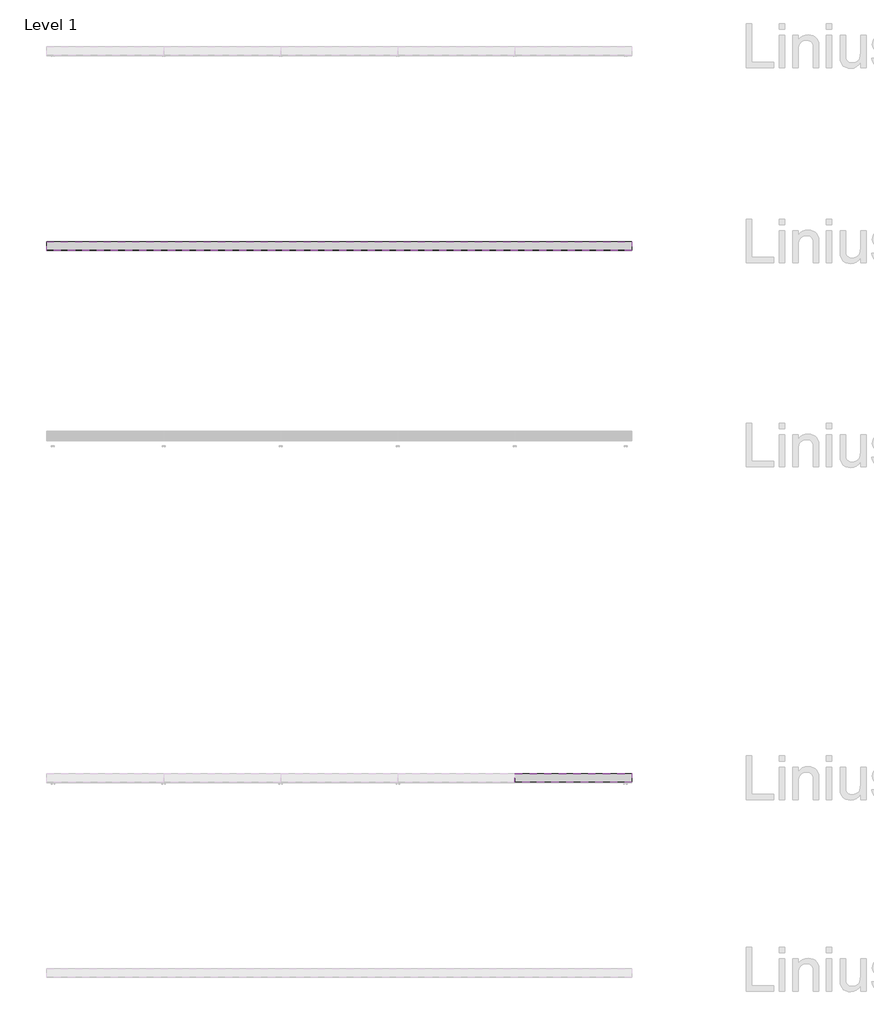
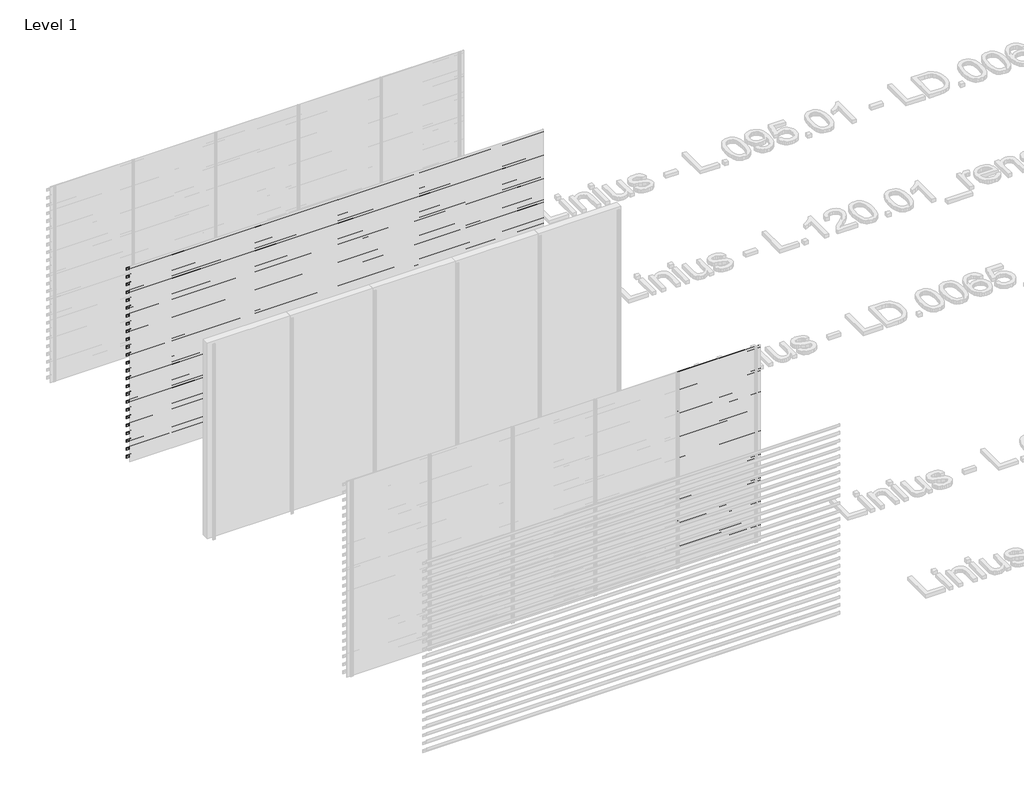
# One storey, part 40 of 46: 50 proxies.
"""IFC4 building model written with IfcOpenShell, lengths in millimetres."""

from ifc_helpers import new_model, si_unit, frame, origin, place, context, project, spatial, polyline, outline, extrude, element, save

model = new_model("IFC4")

# Units and contexts
model_context = context("Model", 3, world=origin())
ifc_project = project(units=[si_unit("LENGTHUNIT", "METRE", prefix="MILLI")], contexts=[model_context])

# Site, building, storey
site = spatial("IfcSite", under=ifc_project)
building = spatial("IfcBuilding", under=site)
storey = spatial("IfcBuildingStorey", under=building, Name="Level 1", Elevation=0.0)

# Proxies
placement = place(None, origin())
element("IfcBuildingElementProxy", 1, Name="Wall Sweeps", at=placement, inside=storey, context=model_context, shape_type="SweptSolid", body=[
    extrude(outline(polyline([(72023.0540136, 2920.0), (72023.0540136, 2880.0), (72021.0540136, 2881.349017), (72021.0540136, 2918.7258595), (71933.0540136, 2959.7609334), (71933.0540136, 3000.0), (71935.0540136, 3000.0), (71935.0540136, 2961.0350739), (72023.0540136, 2920.0)])), frame((466.6208097, 0.0, 0.0), z_axis=(1.0, 0.0, 0.0), x_axis=(0.0, 1.0, 0.0)), (0.0, 0.0, 1.0), 6000.0),
])
element("IfcBuildingElementProxy", 2, Name="Wall Sweeps", at=placement, inside=storey, context=model_context, shape_type="SweptSolid", body=[
    extrude(outline(polyline([(72023.0540136, 2800.0), (72023.0540136, 2760.0), (72021.0540136, 2761.349017), (72021.0540136, 2798.7258595), (71933.0540136, 2839.7609334), (71933.0540136, 2880.0), (71935.0540136, 2880.0), (71935.0540136, 2841.0350739), (72023.0540136, 2800.0)])), frame((466.6208097, 0.0, 0.0), z_axis=(1.0, 0.0, 0.0), x_axis=(0.0, 1.0, 0.0)), (0.0, 0.0, 1.0), 6000.0),
])
element("IfcBuildingElementProxy", 3, Name="Wall Sweeps", at=placement, inside=storey, context=model_context, shape_type="SweptSolid", body=[
    extrude(outline(polyline([(72023.0540136, 2680.0), (72023.0540136, 2640.0), (72021.0540136, 2641.349017), (72021.0540136, 2678.7258595), (71933.0540136, 2719.7609334), (71933.0540136, 2760.0), (71935.0540136, 2760.0), (71935.0540136, 2721.0350739), (72023.0540136, 2680.0)])), frame((466.6208097, 0.0, 0.0), z_axis=(1.0, 0.0, 0.0), x_axis=(0.0, 1.0, 0.0)), (0.0, 0.0, 1.0), 6000.0),
])
element("IfcBuildingElementProxy", 4, Name="Wall Sweeps", at=placement, inside=storey, context=model_context, shape_type="SweptSolid", body=[
    extrude(outline(polyline([(72023.0540136, 2560.0), (72023.0540136, 2520.0), (72021.0540136, 2521.349017), (72021.0540136, 2558.7258595), (71933.0540136, 2599.7609334), (71933.0540136, 2640.0), (71935.0540136, 2640.0), (71935.0540136, 2601.0350739), (72023.0540136, 2560.0)])), frame((466.6208097, 0.0, 0.0), z_axis=(1.0, 0.0, 0.0), x_axis=(0.0, 1.0, 0.0)), (0.0, 0.0, 1.0), 6000.0),
])
element("IfcBuildingElementProxy", 5, Name="Wall Sweeps", at=placement, inside=storey, context=model_context, shape_type="SweptSolid", body=[
    extrude(outline(polyline([(72023.0540136, 2440.0), (72023.0540136, 2400.0), (72021.0540136, 2401.349017), (72021.0540136, 2438.7258595), (71933.0540136, 2479.7609334), (71933.0540136, 2520.0), (71935.0540136, 2520.0), (71935.0540136, 2481.0350739), (72023.0540136, 2440.0)])), frame((466.6208097, 0.0, 0.0), z_axis=(1.0, 0.0, 0.0), x_axis=(0.0, 1.0, 0.0)), (0.0, 0.0, 1.0), 6000.0),
])
element("IfcBuildingElementProxy", 6, Name="Wall Sweeps", at=placement, inside=storey, context=model_context, shape_type="SweptSolid", body=[
    extrude(outline(polyline([(72023.0540136, 2320.0), (72023.0540136, 2280.0), (72021.0540136, 2281.349017), (72021.0540136, 2318.7258595), (71933.0540136, 2359.7609334), (71933.0540136, 2400.0), (71935.0540136, 2400.0), (71935.0540136, 2361.0350739), (72023.0540136, 2320.0)])), frame((466.6208097, 0.0, 0.0), z_axis=(1.0, 0.0, 0.0), x_axis=(0.0, 1.0, 0.0)), (0.0, 0.0, 1.0), 6000.0),
])
element("IfcBuildingElementProxy", 7, Name="Wall Sweeps", at=placement, inside=storey, context=model_context, shape_type="SweptSolid", body=[
    extrude(outline(polyline([(72023.0540136, 2200.0), (72023.0540136, 2160.0), (72021.0540136, 2161.349017), (72021.0540136, 2198.7258595), (71933.0540136, 2239.7609334), (71933.0540136, 2280.0), (71935.0540136, 2280.0), (71935.0540136, 2241.0350739), (72023.0540136, 2200.0)])), frame((466.6208097, 0.0, 0.0), z_axis=(1.0, 0.0, 0.0), x_axis=(0.0, 1.0, 0.0)), (0.0, 0.0, 1.0), 6000.0),
])
element("IfcBuildingElementProxy", 8, Name="Wall Sweeps", at=placement, inside=storey, context=model_context, shape_type="SweptSolid", body=[
    extrude(outline(polyline([(72023.0540136, 2080.0), (72023.0540136, 2040.0), (72021.0540136, 2041.349017), (72021.0540136, 2078.7258595), (71933.0540136, 2119.7609334), (71933.0540136, 2160.0), (71935.0540136, 2160.0), (71935.0540136, 2121.0350739), (72023.0540136, 2080.0)])), frame((466.6208097, 0.0, 0.0), z_axis=(1.0, 0.0, 0.0), x_axis=(0.0, 1.0, 0.0)), (0.0, 0.0, 1.0), 6000.0),
])
element("IfcBuildingElementProxy", 9, Name="Wall Sweeps", at=placement, inside=storey, context=model_context, shape_type="SweptSolid", body=[
    extrude(outline(polyline([(72023.0540136, 1960.0), (72023.0540136, 1920.0), (72021.0540136, 1921.349017), (72021.0540136, 1958.7258595), (71933.0540136, 1999.7609334), (71933.0540136, 2040.0), (71935.0540136, 2040.0), (71935.0540136, 2001.0350739), (72023.0540136, 1960.0)])), frame((466.6208097, 0.0, 0.0), z_axis=(1.0, 0.0, 0.0), x_axis=(0.0, 1.0, 0.0)), (0.0, 0.0, 1.0), 6000.0),
])
element("IfcBuildingElementProxy", 10, Name="Wall Sweeps", at=placement, inside=storey, context=model_context, shape_type="SweptSolid", body=[
    extrude(outline(polyline([(72023.0540136, 1840.0), (72023.0540136, 1800.0), (72021.0540136, 1801.349017), (72021.0540136, 1838.7258595), (71933.0540136, 1879.7609334), (71933.0540136, 1920.0), (71935.0540136, 1920.0), (71935.0540136, 1881.0350739), (72023.0540136, 1840.0)])), frame((466.6208097, 0.0, 0.0), z_axis=(1.0, 0.0, 0.0), x_axis=(0.0, 1.0, 0.0)), (0.0, 0.0, 1.0), 6000.0),
])
element("IfcBuildingElementProxy", 11, Name="Wall Sweeps", at=placement, inside=storey, context=model_context, shape_type="SweptSolid", body=[
    extrude(outline(polyline([(72023.0540136, 1720.0), (72023.0540136, 1680.0), (72021.0540136, 1681.349017), (72021.0540136, 1718.7258595), (71933.0540136, 1759.7609334), (71933.0540136, 1800.0), (71935.0540136, 1800.0), (71935.0540136, 1761.0350739), (72023.0540136, 1720.0)])), frame((466.6208097, 0.0, 0.0), z_axis=(1.0, 0.0, 0.0), x_axis=(0.0, 1.0, 0.0)), (0.0, 0.0, 1.0), 6000.0),
])
element("IfcBuildingElementProxy", 12, Name="Wall Sweeps", at=placement, inside=storey, context=model_context, shape_type="SweptSolid", body=[
    extrude(outline(polyline([(72023.0540136, 1600.0), (72023.0540136, 1560.0), (72021.0540136, 1561.349017), (72021.0540136, 1598.7258595), (71933.0540136, 1639.7609334), (71933.0540136, 1680.0), (71935.0540136, 1680.0), (71935.0540136, 1641.0350739), (72023.0540136, 1600.0)])), frame((466.6208097, 0.0, 0.0), z_axis=(1.0, 0.0, 0.0), x_axis=(0.0, 1.0, 0.0)), (0.0, 0.0, 1.0), 6000.0),
])
element("IfcBuildingElementProxy", 13, Name="Wall Sweeps", at=placement, inside=storey, context=model_context, shape_type="SweptSolid", body=[
    extrude(outline(polyline([(72023.0540136, 1480.0), (72023.0540136, 1440.0), (72021.0540136, 1441.349017), (72021.0540136, 1478.7258595), (71933.0540136, 1519.7609334), (71933.0540136, 1560.0), (71935.0540136, 1560.0), (71935.0540136, 1521.0350739), (72023.0540136, 1480.0)])), frame((466.6208097, 0.0, 0.0), z_axis=(1.0, 0.0, 0.0), x_axis=(0.0, 1.0, 0.0)), (0.0, 0.0, 1.0), 6000.0),
])
element("IfcBuildingElementProxy", 14, Name="Wall Sweeps", at=placement, inside=storey, context=model_context, shape_type="SweptSolid", body=[
    extrude(outline(polyline([(72023.0540136, 1360.0), (72023.0540136, 1320.0), (72021.0540136, 1321.349017), (72021.0540136, 1358.7258595), (71933.0540136, 1399.7609334), (71933.0540136, 1440.0), (71935.0540136, 1440.0), (71935.0540136, 1401.0350739), (72023.0540136, 1360.0)])), frame((466.6208097, 0.0, 0.0), z_axis=(1.0, 0.0, 0.0), x_axis=(0.0, 1.0, 0.0)), (0.0, 0.0, 1.0), 6000.0),
])
element("IfcBuildingElementProxy", 15, Name="Wall Sweeps", at=placement, inside=storey, context=model_context, shape_type="SweptSolid", body=[
    extrude(outline(polyline([(72023.0540136, 1240.0), (72023.0540136, 1200.0), (72021.0540136, 1201.349017), (72021.0540136, 1238.7258595), (71933.0540136, 1279.7609334), (71933.0540136, 1320.0), (71935.0540136, 1320.0), (71935.0540136, 1281.0350739), (72023.0540136, 1240.0)])), frame((466.6208097, 0.0, 0.0), z_axis=(1.0, 0.0, 0.0), x_axis=(0.0, 1.0, 0.0)), (0.0, 0.0, 1.0), 6000.0),
])
element("IfcBuildingElementProxy", 16, Name="Wall Sweeps", at=placement, inside=storey, context=model_context, shape_type="SweptSolid", body=[
    extrude(outline(polyline([(72023.0540136, 1120.0), (72023.0540136, 1080.0), (72021.0540136, 1081.349017), (72021.0540136, 1118.7258595), (71933.0540136, 1159.7609334), (71933.0540136, 1200.0), (71935.0540136, 1200.0), (71935.0540136, 1161.0350739), (72023.0540136, 1120.0)])), frame((466.6208097, 0.0, 0.0), z_axis=(1.0, 0.0, 0.0), x_axis=(0.0, 1.0, 0.0)), (0.0, 0.0, 1.0), 6000.0),
])
element("IfcBuildingElementProxy", 17, Name="Wall Sweeps", at=placement, inside=storey, context=model_context, shape_type="SweptSolid", body=[
    extrude(outline(polyline([(72023.0540136, 1000.0), (72023.0540136, 960.0), (72021.0540136, 961.349017), (72021.0540136, 998.7258595), (71933.0540136, 1039.7609334), (71933.0540136, 1080.0), (71935.0540136, 1080.0), (71935.0540136, 1041.0350739), (72023.0540136, 1000.0)])), frame((466.6208097, 0.0, 0.0), z_axis=(1.0, 0.0, 0.0), x_axis=(0.0, 1.0, 0.0)), (0.0, 0.0, 1.0), 6000.0),
])
element("IfcBuildingElementProxy", 18, Name="Wall Sweeps", at=placement, inside=storey, context=model_context, shape_type="SweptSolid", body=[
    extrude(outline(polyline([(72023.0540136, 880.0), (72023.0540136, 840.0), (72021.0540136, 841.349017), (72021.0540136, 878.7258595), (71933.0540136, 919.7609334), (71933.0540136, 960.0), (71935.0540136, 960.0), (71935.0540136, 921.0350739), (72023.0540136, 880.0)])), frame((466.6208097, 0.0, 0.0), z_axis=(1.0, 0.0, 0.0), x_axis=(0.0, 1.0, 0.0)), (0.0, 0.0, 1.0), 6000.0),
])
element("IfcBuildingElementProxy", 19, Name="Wall Sweeps", at=placement, inside=storey, context=model_context, shape_type="SweptSolid", body=[
    extrude(outline(polyline([(72023.0540136, 760.0), (72023.0540136, 720.0), (72021.0540136, 721.349017), (72021.0540136, 758.7258595), (71933.0540136, 799.7609334), (71933.0540136, 840.0), (71935.0540136, 840.0), (71935.0540136, 801.0350739), (72023.0540136, 760.0)])), frame((466.6208097, 0.0, 0.0), z_axis=(1.0, 0.0, 0.0), x_axis=(0.0, 1.0, 0.0)), (0.0, 0.0, 1.0), 6000.0),
])
element("IfcBuildingElementProxy", 20, Name="Wall Sweeps", at=placement, inside=storey, context=model_context, shape_type="SweptSolid", body=[
    extrude(outline(polyline([(72023.0540136, 640.0), (72023.0540136, 600.0), (72021.0540136, 601.349017), (72021.0540136, 638.7258595), (71933.0540136, 679.7609334), (71933.0540136, 720.0), (71935.0540136, 720.0), (71935.0540136, 681.0350739), (72023.0540136, 640.0)])), frame((466.6208097, 0.0, 0.0), z_axis=(1.0, 0.0, 0.0), x_axis=(0.0, 1.0, 0.0)), (0.0, 0.0, 1.0), 6000.0),
])
element("IfcBuildingElementProxy", 21, Name="Wall Sweeps", at=placement, inside=storey, context=model_context, shape_type="SweptSolid", body=[
    extrude(outline(polyline([(72023.0540136, 520.0), (72023.0540136, 480.0), (72021.0540136, 481.349017), (72021.0540136, 518.7258595), (71933.0540136, 559.7609334), (71933.0540136, 600.0), (71935.0540136, 600.0), (71935.0540136, 561.0350739), (72023.0540136, 520.0)])), frame((466.6208097, 0.0, 0.0), z_axis=(1.0, 0.0, 0.0), x_axis=(0.0, 1.0, 0.0)), (0.0, 0.0, 1.0), 6000.0),
])
element("IfcBuildingElementProxy", 22, Name="Wall Sweeps", at=placement, inside=storey, context=model_context, shape_type="SweptSolid", body=[
    extrude(outline(polyline([(72023.0540136, 400.0), (72023.0540136, 360.0), (72021.0540136, 361.349017), (72021.0540136, 398.7258595), (71933.0540136, 439.7609334), (71933.0540136, 480.0), (71935.0540136, 480.0), (71935.0540136, 441.0350739), (72023.0540136, 400.0)])), frame((466.6208097, 0.0, 0.0), z_axis=(1.0, 0.0, 0.0), x_axis=(0.0, 1.0, 0.0)), (0.0, 0.0, 1.0), 6000.0),
])
element("IfcBuildingElementProxy", 23, Name="Wall Sweeps", at=placement, inside=storey, context=model_context, shape_type="SweptSolid", body=[
    extrude(outline(polyline([(72023.0540136, 280.0), (72023.0540136, 240.0), (72021.0540136, 241.349017), (72021.0540136, 278.7258595), (71933.0540136, 319.7609334), (71933.0540136, 360.0), (71935.0540136, 360.0), (71935.0540136, 321.0350739), (72023.0540136, 280.0)])), frame((466.6208097, 0.0, 0.0), z_axis=(1.0, 0.0, 0.0), x_axis=(0.0, 1.0, 0.0)), (0.0, 0.0, 1.0), 6000.0),
])
element("IfcBuildingElementProxy", 24, Name="Wall Sweeps", at=placement, inside=storey, context=model_context, shape_type="SweptSolid", body=[
    extrude(outline(polyline([(72023.0540136, 160.0), (72023.0540136, 120.0), (72021.0540136, 121.349017), (72021.0540136, 158.7258595), (71933.0540136, 199.7609334), (71933.0540136, 240.0), (71935.0540136, 240.0), (71935.0540136, 201.0350739), (72023.0540136, 160.0)])), frame((466.6208097, 0.0, 0.0), z_axis=(1.0, 0.0, 0.0), x_axis=(0.0, 1.0, 0.0)), (0.0, 0.0, 1.0), 6000.0),
])
element("IfcBuildingElementProxy", 25, Name="Wall Sweeps", at=placement, inside=storey, context=model_context, shape_type="SweptSolid", body=[
    extrude(outline(polyline([(72023.0540136, 40.0), (72023.0540136, 0.0), (72021.0540136, 1.349017), (72021.0540136, 38.7258595), (71933.0540136, 79.7609334), (71933.0540136, 120.0), (71935.0540136, 120.0), (71935.0540136, 81.0350739), (72023.0540136, 40.0)])), frame((466.6208097, 0.0, 0.0), z_axis=(1.0, 0.0, 0.0), x_axis=(0.0, 1.0, 0.0)), (0.0, 0.0, 1.0), 6000.0),
])
element("IfcBuildingElementProxy", 26, Name="Wall Sweeps", at=placement, inside=storey, context=model_context, shape_type="SweptSolid", body=[
    extrude(outline(polyline([(66573.0540136, 2920.0), (66573.0540136, 2880.0), (66571.0540136, 2881.349017), (66571.0540136, 2918.7258595), (66483.0540136, 2959.7609334), (66483.0540136, 3000.0), (66485.0540136, 3000.0), (66485.0540136, 2961.0350739), (66573.0540136, 2920.0)])), frame((5266.6208095, 0.0, 0.0), z_axis=(1.0, 0.0, 0.0), x_axis=(0.0, 1.0, 0.0)), (0.0, 0.0, 1.0), 1200.0000002),
])
element("IfcBuildingElementProxy", 27, Name="Wall Sweeps", at=placement, inside=storey, context=model_context, shape_type="SweptSolid", body=[
    extrude(outline(polyline([(66573.0540136, 2800.0), (66573.0540136, 2760.0), (66571.0540136, 2761.349017), (66571.0540136, 2798.7258595), (66483.0540136, 2839.7609334), (66483.0540136, 2880.0), (66485.0540136, 2880.0), (66485.0540136, 2841.0350739), (66573.0540136, 2800.0)])), frame((5266.6208095, 0.0, 0.0), z_axis=(1.0, 0.0, 0.0), x_axis=(0.0, 1.0, 0.0)), (0.0, 0.0, 1.0), 1200.0000002),
])
element("IfcBuildingElementProxy", 28, Name="Wall Sweeps", at=placement, inside=storey, context=model_context, shape_type="SweptSolid", body=[
    extrude(outline(polyline([(66573.0540136, 2680.0), (66573.0540136, 2640.0), (66571.0540136, 2641.349017), (66571.0540136, 2678.7258595), (66483.0540136, 2719.7609334), (66483.0540136, 2760.0), (66485.0540136, 2760.0), (66485.0540136, 2721.0350739), (66573.0540136, 2680.0)])), frame((5266.6208095, 0.0, 0.0), z_axis=(1.0, 0.0, 0.0), x_axis=(0.0, 1.0, 0.0)), (0.0, 0.0, 1.0), 1200.0000002),
])
element("IfcBuildingElementProxy", 29, Name="Wall Sweeps", at=placement, inside=storey, context=model_context, shape_type="SweptSolid", body=[
    extrude(outline(polyline([(66573.0540136, 2560.0), (66573.0540136, 2520.0), (66571.0540136, 2521.349017), (66571.0540136, 2558.7258595), (66483.0540136, 2599.7609334), (66483.0540136, 2640.0), (66485.0540136, 2640.0), (66485.0540136, 2601.0350739), (66573.0540136, 2560.0)])), frame((5266.6208095, 0.0, 0.0), z_axis=(1.0, 0.0, 0.0), x_axis=(0.0, 1.0, 0.0)), (0.0, 0.0, 1.0), 1200.0000002),
])
element("IfcBuildingElementProxy", 30, Name="Wall Sweeps", at=placement, inside=storey, context=model_context, shape_type="SweptSolid", body=[
    extrude(outline(polyline([(66573.0540136, 2440.0), (66573.0540136, 2400.0), (66571.0540136, 2401.349017), (66571.0540136, 2438.7258595), (66483.0540136, 2479.7609334), (66483.0540136, 2520.0), (66485.0540136, 2520.0), (66485.0540136, 2481.0350739), (66573.0540136, 2440.0)])), frame((5266.6208095, 0.0, 0.0), z_axis=(1.0, 0.0, 0.0), x_axis=(0.0, 1.0, 0.0)), (0.0, 0.0, 1.0), 1200.0000002),
])
element("IfcBuildingElementProxy", 31, Name="Wall Sweeps", at=placement, inside=storey, context=model_context, shape_type="SweptSolid", body=[
    extrude(outline(polyline([(66573.0540136, 2320.0), (66573.0540136, 2280.0), (66571.0540136, 2281.349017), (66571.0540136, 2318.7258595), (66483.0540136, 2359.7609334), (66483.0540136, 2400.0), (66485.0540136, 2400.0), (66485.0540136, 2361.0350739), (66573.0540136, 2320.0)])), frame((5266.6208095, 0.0, 0.0), z_axis=(1.0, 0.0, 0.0), x_axis=(0.0, 1.0, 0.0)), (0.0, 0.0, 1.0), 1200.0000002),
])
element("IfcBuildingElementProxy", 32, Name="Wall Sweeps", at=placement, inside=storey, context=model_context, shape_type="SweptSolid", body=[
    extrude(outline(polyline([(66573.0540136, 2200.0), (66573.0540136, 2160.0), (66571.0540136, 2161.349017), (66571.0540136, 2198.7258595), (66483.0540136, 2239.7609334), (66483.0540136, 2280.0), (66485.0540136, 2280.0), (66485.0540136, 2241.0350739), (66573.0540136, 2200.0)])), frame((5266.6208095, 0.0, 0.0), z_axis=(1.0, 0.0, 0.0), x_axis=(0.0, 1.0, 0.0)), (0.0, 0.0, 1.0), 1200.0000002),
])
element("IfcBuildingElementProxy", 33, Name="Wall Sweeps", at=placement, inside=storey, context=model_context, shape_type="SweptSolid", body=[
    extrude(outline(polyline([(66573.0540136, 2080.0), (66573.0540136, 2040.0), (66571.0540136, 2041.349017), (66571.0540136, 2078.7258595), (66483.0540136, 2119.7609334), (66483.0540136, 2160.0), (66485.0540136, 2160.0), (66485.0540136, 2121.0350739), (66573.0540136, 2080.0)])), frame((5266.6208095, 0.0, 0.0), z_axis=(1.0, 0.0, 0.0), x_axis=(0.0, 1.0, 0.0)), (0.0, 0.0, 1.0), 1200.0000002),
])
element("IfcBuildingElementProxy", 34, Name="Wall Sweeps", at=placement, inside=storey, context=model_context, shape_type="SweptSolid", body=[
    extrude(outline(polyline([(66573.0540136, 1960.0), (66573.0540136, 1920.0), (66571.0540136, 1921.349017), (66571.0540136, 1958.7258595), (66483.0540136, 1999.7609334), (66483.0540136, 2040.0), (66485.0540136, 2040.0), (66485.0540136, 2001.0350739), (66573.0540136, 1960.0)])), frame((5266.6208095, 0.0, 0.0), z_axis=(1.0, 0.0, 0.0), x_axis=(0.0, 1.0, 0.0)), (0.0, 0.0, 1.0), 1200.0000002),
])
element("IfcBuildingElementProxy", 35, Name="Wall Sweeps", at=placement, inside=storey, context=model_context, shape_type="SweptSolid", body=[
    extrude(outline(polyline([(66573.0540136, 1840.0), (66573.0540136, 1800.0), (66571.0540136, 1801.349017), (66571.0540136, 1838.7258595), (66483.0540136, 1879.7609334), (66483.0540136, 1920.0), (66485.0540136, 1920.0), (66485.0540136, 1881.0350739), (66573.0540136, 1840.0)])), frame((5266.6208095, 0.0, 0.0), z_axis=(1.0, 0.0, 0.0), x_axis=(0.0, 1.0, 0.0)), (0.0, 0.0, 1.0), 1200.0000002),
])
element("IfcBuildingElementProxy", 36, Name="Wall Sweeps", at=placement, inside=storey, context=model_context, shape_type="SweptSolid", body=[
    extrude(outline(polyline([(66573.0540136, 1720.0), (66573.0540136, 1680.0), (66571.0540136, 1681.349017), (66571.0540136, 1718.7258595), (66483.0540136, 1759.7609334), (66483.0540136, 1800.0), (66485.0540136, 1800.0), (66485.0540136, 1761.0350739), (66573.0540136, 1720.0)])), frame((5266.6208095, 0.0, 0.0), z_axis=(1.0, 0.0, 0.0), x_axis=(0.0, 1.0, 0.0)), (0.0, 0.0, 1.0), 1200.0000002),
])
element("IfcBuildingElementProxy", 37, Name="Wall Sweeps", at=placement, inside=storey, context=model_context, shape_type="SweptSolid", body=[
    extrude(outline(polyline([(66573.0540136, 1600.0), (66573.0540136, 1560.0), (66571.0540136, 1561.349017), (66571.0540136, 1598.7258595), (66483.0540136, 1639.7609334), (66483.0540136, 1680.0), (66485.0540136, 1680.0), (66485.0540136, 1641.0350739), (66573.0540136, 1600.0)])), frame((5266.6208095, 0.0, 0.0), z_axis=(1.0, 0.0, 0.0), x_axis=(0.0, 1.0, 0.0)), (0.0, 0.0, 1.0), 1200.0000002),
])
element("IfcBuildingElementProxy", 38, Name="Wall Sweeps", at=placement, inside=storey, context=model_context, shape_type="SweptSolid", body=[
    extrude(outline(polyline([(66573.0540136, 1480.0), (66573.0540136, 1440.0), (66571.0540136, 1441.349017), (66571.0540136, 1478.7258595), (66483.0540136, 1519.7609334), (66483.0540136, 1560.0), (66485.0540136, 1560.0), (66485.0540136, 1521.0350739), (66573.0540136, 1480.0)])), frame((5266.6208095, 0.0, 0.0), z_axis=(1.0, 0.0, 0.0), x_axis=(0.0, 1.0, 0.0)), (0.0, 0.0, 1.0), 1200.0000002),
])
element("IfcBuildingElementProxy", 39, Name="Wall Sweeps", at=placement, inside=storey, context=model_context, shape_type="SweptSolid", body=[
    extrude(outline(polyline([(66573.0540136, 1360.0), (66573.0540136, 1320.0), (66571.0540136, 1321.349017), (66571.0540136, 1358.7258595), (66483.0540136, 1399.7609334), (66483.0540136, 1440.0), (66485.0540136, 1440.0), (66485.0540136, 1401.0350739), (66573.0540136, 1360.0)])), frame((5266.6208095, 0.0, 0.0), z_axis=(1.0, 0.0, 0.0), x_axis=(0.0, 1.0, 0.0)), (0.0, 0.0, 1.0), 1200.0000002),
])
element("IfcBuildingElementProxy", 40, Name="Wall Sweeps", at=placement, inside=storey, context=model_context, shape_type="SweptSolid", body=[
    extrude(outline(polyline([(66573.0540136, 1240.0), (66573.0540136, 1200.0), (66571.0540136, 1201.349017), (66571.0540136, 1238.7258595), (66483.0540136, 1279.7609334), (66483.0540136, 1320.0), (66485.0540136, 1320.0), (66485.0540136, 1281.0350739), (66573.0540136, 1240.0)])), frame((5266.6208095, 0.0, 0.0), z_axis=(1.0, 0.0, 0.0), x_axis=(0.0, 1.0, 0.0)), (0.0, 0.0, 1.0), 1200.0000002),
])
element("IfcBuildingElementProxy", 41, Name="Wall Sweeps", at=placement, inside=storey, context=model_context, shape_type="SweptSolid", body=[
    extrude(outline(polyline([(66573.0540136, 1120.0), (66573.0540136, 1080.0), (66571.0540136, 1081.349017), (66571.0540136, 1118.7258595), (66483.0540136, 1159.7609334), (66483.0540136, 1200.0), (66485.0540136, 1200.0), (66485.0540136, 1161.0350739), (66573.0540136, 1120.0)])), frame((5266.6208095, 0.0, 0.0), z_axis=(1.0, 0.0, 0.0), x_axis=(0.0, 1.0, 0.0)), (0.0, 0.0, 1.0), 1200.0000002),
])
element("IfcBuildingElementProxy", 42, Name="Wall Sweeps", at=placement, inside=storey, context=model_context, shape_type="SweptSolid", body=[
    extrude(outline(polyline([(66573.0540136, 1000.0), (66573.0540136, 960.0), (66571.0540136, 961.349017), (66571.0540136, 998.7258595), (66483.0540136, 1039.7609334), (66483.0540136, 1080.0), (66485.0540136, 1080.0), (66485.0540136, 1041.0350739), (66573.0540136, 1000.0)])), frame((5266.6208095, 0.0, 0.0), z_axis=(1.0, 0.0, 0.0), x_axis=(0.0, 1.0, 0.0)), (0.0, 0.0, 1.0), 1200.0000002),
])
element("IfcBuildingElementProxy", 43, Name="Wall Sweeps", at=placement, inside=storey, context=model_context, shape_type="SweptSolid", body=[
    extrude(outline(polyline([(66573.0540136, 880.0), (66573.0540136, 840.0), (66571.0540136, 841.349017), (66571.0540136, 878.7258595), (66483.0540136, 919.7609334), (66483.0540136, 960.0), (66485.0540136, 960.0), (66485.0540136, 921.0350739), (66573.0540136, 880.0)])), frame((5266.6208095, 0.0, 0.0), z_axis=(1.0, 0.0, 0.0), x_axis=(0.0, 1.0, 0.0)), (0.0, 0.0, 1.0), 1200.0000002),
])
element("IfcBuildingElementProxy", 44, Name="Wall Sweeps", at=placement, inside=storey, context=model_context, shape_type="SweptSolid", body=[
    extrude(outline(polyline([(66573.0540136, 760.0), (66573.0540136, 720.0), (66571.0540136, 721.349017), (66571.0540136, 758.7258595), (66483.0540136, 799.7609334), (66483.0540136, 840.0), (66485.0540136, 840.0), (66485.0540136, 801.0350739), (66573.0540136, 760.0)])), frame((5266.6208095, 0.0, 0.0), z_axis=(1.0, 0.0, 0.0), x_axis=(0.0, 1.0, 0.0)), (0.0, 0.0, 1.0), 1200.0000002),
])
element("IfcBuildingElementProxy", 45, Name="Wall Sweeps", at=placement, inside=storey, context=model_context, shape_type="SweptSolid", body=[
    extrude(outline(polyline([(66573.0540136, 640.0), (66573.0540136, 600.0), (66571.0540136, 601.349017), (66571.0540136, 638.7258595), (66483.0540136, 679.7609334), (66483.0540136, 720.0), (66485.0540136, 720.0), (66485.0540136, 681.0350739), (66573.0540136, 640.0)])), frame((5266.6208095, 0.0, 0.0), z_axis=(1.0, 0.0, 0.0), x_axis=(0.0, 1.0, 0.0)), (0.0, 0.0, 1.0), 1200.0000002),
])
element("IfcBuildingElementProxy", 46, Name="Wall Sweeps", at=placement, inside=storey, context=model_context, shape_type="SweptSolid", body=[
    extrude(outline(polyline([(66573.0540136, 520.0), (66573.0540136, 480.0), (66571.0540136, 481.349017), (66571.0540136, 518.7258595), (66483.0540136, 559.7609334), (66483.0540136, 600.0), (66485.0540136, 600.0), (66485.0540136, 561.0350739), (66573.0540136, 520.0)])), frame((5266.6208095, 0.0, 0.0), z_axis=(1.0, 0.0, 0.0), x_axis=(0.0, 1.0, 0.0)), (0.0, 0.0, 1.0), 1200.0000002),
])
element("IfcBuildingElementProxy", 47, Name="Wall Sweeps", at=placement, inside=storey, context=model_context, shape_type="SweptSolid", body=[
    extrude(outline(polyline([(66573.0540136, 400.0), (66573.0540136, 360.0), (66571.0540136, 361.349017), (66571.0540136, 398.7258595), (66483.0540136, 439.7609334), (66483.0540136, 480.0), (66485.0540136, 480.0), (66485.0540136, 441.0350739), (66573.0540136, 400.0)])), frame((5266.6208095, 0.0, 0.0), z_axis=(1.0, 0.0, 0.0), x_axis=(0.0, 1.0, 0.0)), (0.0, 0.0, 1.0), 1200.0000002),
])
element("IfcBuildingElementProxy", 48, Name="Wall Sweeps", at=placement, inside=storey, context=model_context, shape_type="SweptSolid", body=[
    extrude(outline(polyline([(66573.0540136, 280.0), (66573.0540136, 240.0), (66571.0540136, 241.349017), (66571.0540136, 278.7258595), (66483.0540136, 319.7609334), (66483.0540136, 360.0), (66485.0540136, 360.0), (66485.0540136, 321.0350739), (66573.0540136, 280.0)])), frame((5266.6208095, 0.0, 0.0), z_axis=(1.0, 0.0, 0.0), x_axis=(0.0, 1.0, 0.0)), (0.0, 0.0, 1.0), 1200.0000002),
])
element("IfcBuildingElementProxy", 49, Name="Wall Sweeps", at=placement, inside=storey, context=model_context, shape_type="SweptSolid", body=[
    extrude(outline(polyline([(66573.0540136, 160.0), (66573.0540136, 120.0), (66571.0540136, 121.349017), (66571.0540136, 158.7258595), (66483.0540136, 199.7609334), (66483.0540136, 240.0), (66485.0540136, 240.0), (66485.0540136, 201.0350739), (66573.0540136, 160.0)])), frame((5266.6208095, 0.0, 0.0), z_axis=(1.0, 0.0, 0.0), x_axis=(0.0, 1.0, 0.0)), (0.0, 0.0, 1.0), 1200.0000002),
])
element("IfcBuildingElementProxy", 50, Name="Wall Sweeps", at=placement, inside=storey, context=model_context, shape_type="SweptSolid", body=[
    extrude(outline(polyline([(66573.0540136, 40.0), (66573.0540136, 0.0), (66571.0540136, 1.349017), (66571.0540136, 38.7258595), (66483.0540136, 79.7609334), (66483.0540136, 120.0), (66485.0540136, 120.0), (66485.0540136, 81.0350739), (66573.0540136, 40.0)])), frame((5266.6208095, 0.0, 0.0), z_axis=(1.0, 0.0, 0.0), x_axis=(0.0, 1.0, 0.0)), (0.0, 0.0, 1.0), 1200.0000002),
])

save(model, "model.ifc")
